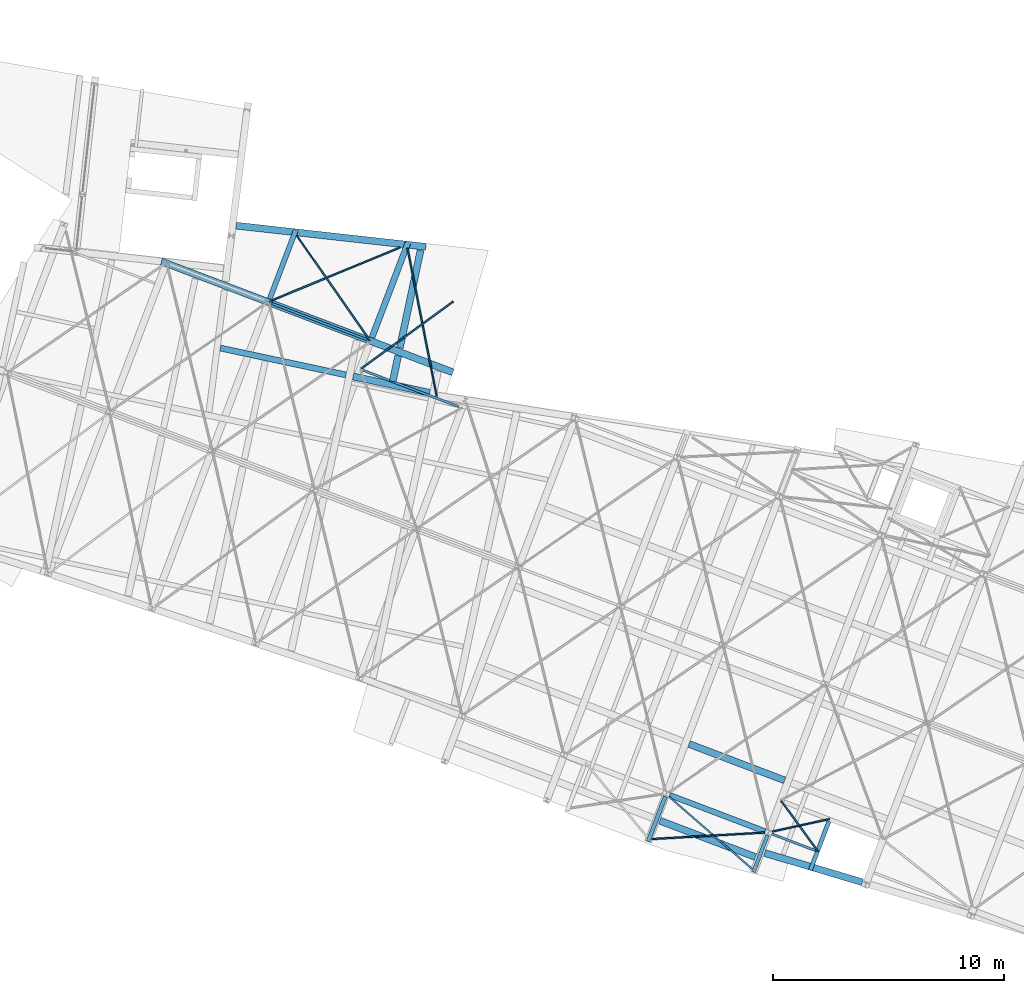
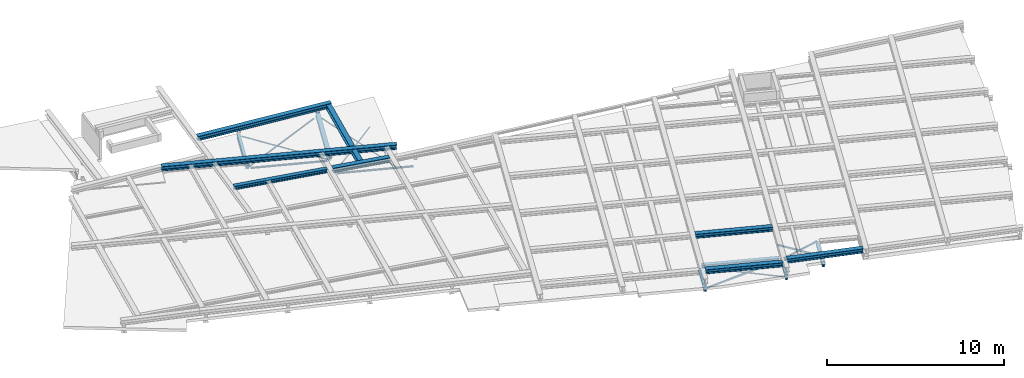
# One storey, part 13 of 21: 26 beams.
"""IFC2X3 building model written with IfcOpenShell, lengths in millimetres."""

from ifc_helpers import new_model, entity, si_unit, converted_unit, derived_unit, direction, frame, frame_2d, origin, place, context, subcontext, project, spatial, polyline, circle_curve, parameter, trimmed, segment, composite_curve, i_section, outline, extrude, clip, halfspace, material, type_object, element, save


model = new_model("IFC2X3")

# Units and contexts
model_context = context("Model", 3, precision=0.01, world=origin(), true_north=direction((6.123233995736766e-17, 1.0)))
body_context = subcontext(model_context, "Body", "Model", "MODEL_VIEW")
ifc_project = project(units=[si_unit("LENGTHUNIT", "METRE", prefix="MILLI"), converted_unit("PLANEANGLEUNIT", "DEGREE", entity("IfcPlaneAngleMeasure", 0.017453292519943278), si_unit("PLANEANGLEUNIT", "RADIAN"), dimensions=[0, 0, 0, 0, 0, 0, 0]), si_unit("AREAUNIT", "SQUARE_METRE"), derived_unit("THERMALTRANSMITTANCEUNIT", [(si_unit("MASSUNIT", "GRAM", prefix="KILO"), 1), (si_unit("THERMODYNAMICTEMPERATUREUNIT", "KELVIN"), -1), (si_unit("TIMEUNIT", "SECOND"), -3)])], contexts=[model_context])

# Site, building, storey
site_placement = place(None, frame((-72937.88054949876, 11621.45624098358, 0.0), z_axis=(0.0, 0.0, 1.0), x_axis=(0.9346418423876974, -0.35559053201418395, 0.0)))
site = spatial("IfcSite", under=ifc_project, at=site_placement, Name="Default", CompositionType="ELEMENT")
building_placement = place(site_placement, origin())
building = spatial("IfcBuilding", under=site, at=building_placement, CompositionType="ELEMENT")
storey_placement = place(building_placement, frame((0.0, 0.0, 4250.0)))
storey = spatial("IfcBuildingStorey", under=building, at=storey_placement, Name="01 eerste verdieping", CompositionType="ELEMENT", Elevation=4250.0)

# Beams
ifc_material_1 = material(Name="metaal_staal_generiek")
beam_type_1 = type_object("IfcBeamType", Name="DIE16", PredefinedType="BEAM")
beam_1_placement = place(storey_placement, frame((52840.0, 15000.0, -80.0), z_axis=(0.0, 0.0, 1.0), x_axis=(0.0, -1.0, 0.0)))
element("IfcBeam", 1, at=beam_1_placement, inside=storey, type_object=beam_type_1, material=ifc_material_1, Name="28.11_Stalen balk HEA", ObjectType="stalen balk HEA profiel", context=body_context, shape_type="SweptSolid", body=[
    extrude(i_section(OverallWidth=159.99999999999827, OverallDepth=152.00000000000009, WebThickness=5.999999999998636, FlangeThickness=9.00000000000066, FilletRadius=14.999999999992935, at=frame_2d((5.400124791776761e-13, 0.0), x_axis=(0.0, 1.0))), frame((125.04658124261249, 0.0, -246.0), z_axis=(1.0, 0.0, 0.0), x_axis=(0.0, 0.0, -1.0)), (0.0, 0.0, 1.0), 1697.1999999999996),
])
beam_type_2 = type_object("IfcBeamType", Name="DIE18", PredefinedType="BEAM")
beam_2_placement = place(storey_placement, frame((48110.0, 15000.0, -80.0), z_axis=(0.0, 0.0, 1.0), x_axis=(0.0, -1.0, 0.0)))
element("IfcBeam", 2, at=beam_2_placement, inside=storey, type_object=beam_type_2, material=ifc_material_1, Name="28.11_Stalen balk HEA", ObjectType="stalen balk HEA profiel", context=body_context, shape_type="SweptSolid", body=[
    extrude(i_section(OverallWidth=180.0000000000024, OverallDepth=171.0000000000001, WebThickness=5.999999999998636, FlangeThickness=9.500000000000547, FilletRadius=14.999999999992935, at=frame_2d((1.0800249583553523e-12, -4.334310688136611e-12), x_axis=(0.0, 1.0))), frame((125.00896072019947, 0.0, -255.50000000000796), z_axis=(1.0, 0.0, 0.0), x_axis=(0.0, 0.0, -1.0)), (0.0, 0.0, 1.0), 2077.5),
])
beam_type_3 = type_object("IfcBeamType", Name="DIE24", PredefinedType="BEAM")
beam_3_placement = place(storey_placement, frame((52840.0, 15000.0, -80.0), z_axis=(0.0, 0.0, 1.0), x_axis=(-1.0, 0.0, 0.0)))
element("IfcBeam", 3, at=beam_3_placement, inside=storey, type_object=beam_type_3, material=ifc_material_1, Name="28.11_Stalen balk HEA", ObjectType="stalen balk HEA profiel", context=body_context, shape_type="SweptSolid", body=[
    extrude(i_section(OverallWidth=239.99999999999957, OverallDepth=229.9999999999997, WebThickness=7.50000000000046, FlangeThickness=12.00000000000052, FilletRadius=20.999999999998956, at=frame_2d((1.0800249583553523e-12, -1.0871303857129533e-12), x_axis=(0.0, 1.0))), frame((150.0, 0.0, -115.0), z_axis=(1.0, 0.0, 0.0), x_axis=(0.0, 0.0, -1.0)), (0.0, 0.0, 1.0), 4429.999999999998),
])
beam_type_4 = type_object("IfcBeamType", Name="DIE10", PredefinedType="BEAM")
beam_4_placement = place(storey_placement, frame((33920.0, 27460.0, -80.0), z_axis=(0.0, 0.0, 1.0), x_axis=(-1.0, 0.0, 0.0)))
element("IfcBeam", 4, at=beam_4_placement, inside=storey, type_object=beam_type_4, material=ifc_material_1, Name="28.11_Stalen balk HEA", ObjectType="stalen balk HEA profiel", context=body_context, shape_type="SweptSolid", body=[
    extrude(i_section(OverallWidth=99.99999999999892, OverallDepth=95.99999999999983, WebThickness=4.999999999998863, FlangeThickness=8.000000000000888, FilletRadius=12.000000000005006, at=frame_2d((1.623590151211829e-12, -2.1671553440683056e-12), x_axis=(0.0, 1.0))), frame((162.69999999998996, 0.0, -218.0), z_axis=(1.0, 0.0, 0.0), x_axis=(0.0, 0.0, -1.0)), (0.0, 0.0, 1.0), 4404.600000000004),
])
beam_5_placement = place(storey_placement, frame((29190.0, 28760.0, -80.0), z_axis=(0.0, 0.0, 1.0), x_axis=(-1.0, 0.0, 0.0)))
element("IfcBeam", 5, at=beam_5_placement, inside=storey, type_object=beam_type_4, material=ifc_material_1, Name="28.11_Stalen balk HEA", ObjectType="stalen balk HEA profiel", context=body_context, shape_type="SweptSolid", body=[
    extrude(i_section(OverallWidth=99.99999999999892, OverallDepth=95.99999999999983, WebThickness=4.999999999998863, FlangeThickness=8.000000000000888, FilletRadius=12.000000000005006, at=frame_2d((1.623590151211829e-12, 2.1671553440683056e-12), x_axis=(0.0, 1.0))), frame((162.69999999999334, 0.0, -218.0), z_axis=(1.0, 0.0, 0.0), x_axis=(0.0, 0.0, -1.0)), (0.0, 0.0, 1.0), 4404.600000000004),
])
beam_6_placement = place(storey_placement, frame((55019.885669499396, 15000.0, -80.0), z_axis=(0.0, 0.0, 1.0), x_axis=(-1.0, 0.0, 0.0)))
element("IfcBeam", 6, at=beam_6_placement, inside=storey, type_object=beam_type_4, material=ifc_material_1, Name="28.11_Stalen balk HEA", ObjectType="stalen balk HEA profiel", context=body_context, shape_type="SweptSolid", body=[
    extrude(i_section(OverallWidth=100.0000000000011, OverallDepth=95.99999999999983, WebThickness=5.0000000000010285, FlangeThickness=8.000000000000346, FilletRadius=11.999999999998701, at=frame_2d((1.623590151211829e-12, 1.0835776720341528e-12), x_axis=(0.0, 1.0))), frame((0.042834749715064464, 0.0, -218.0), z_axis=(1.0, 0.0, 0.0), x_axis=(0.0, 0.0, -1.0)), (0.0, 0.0, 1.0), 2029.8000000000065),
])
beam_type_5 = type_object("IfcBeamType", Name="DIE26", PredefinedType="BEAM")
beam_7_placement = place(storey_placement, frame((29190.0, 28760.0, -80.0), z_axis=(0.0, 0.0, 1.0), x_axis=(0.0, 1.0, 0.0)))
element("IfcBeam", 7, at=beam_7_placement, inside=storey, type_object=beam_type_5, material=ifc_material_1, Name="28.11_Stalen balk HEA", ObjectType="stalen balk HEA profiel", context=body_context, shape_type="SweptSolid", body=[
    extrude(i_section(OverallWidth=260.00000000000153, OverallDepth=250.00000000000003, WebThickness=7.500000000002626, FlangeThickness=12.500000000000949, FilletRadius=23.999999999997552, at=frame_2d((-2.7000623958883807e-13, 4.320099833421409e-12), x_axis=(0.0, 1.0))), frame((160.00881221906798, 0.0, -125.0), z_axis=(1.0, 0.0, 0.0), x_axis=(0.0, 0.0, -1.0)), (0.0, 0.0, 1.0), 4374.700000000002),
])
beam_type_6 = type_object("IfcBeamType", Name="DIE22", PredefinedType="BEAM")
beam_8_placement = place(storey_placement, frame((24460.0, 28760.0, -80.0), z_axis=(0.0, 0.0, 1.0), x_axis=(0.0, 1.0, 0.0)))
element("IfcBeam", 8, at=beam_8_placement, inside=storey, type_object=beam_type_6, material=ifc_material_1, Name="28.11_Stalen balk HEA", ObjectType="stalen balk HEA profiel", context=body_context, shape_type="SweptSolid", body=[
    extrude(i_section(OverallWidth=220.00000000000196, OverallDepth=209.9999999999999, WebThickness=7.00000000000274, FlangeThickness=11.000000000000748, FilletRadius=18.0000000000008, at=frame_2d((1.0871303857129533e-12, -2.1671553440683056e-12), x_axis=(0.0, 1.0))), frame((160.03702083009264, 0.0, -275.0), z_axis=(1.0, 0.0, 0.0), x_axis=(0.0, 0.0, -1.0)), (0.0, 0.0, 1.0), 3153.099999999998),
])
beam_type_7 = type_object("IfcBeamType", Name="L70x7", PredefinedType="NOTDEFINED")
beam_9_placement = place(storey_placement, frame((48110.0, 15000.0, -270.0), z_axis=(0.0, 0.0, 1.0), x_axis=(0.9387184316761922, -0.3446849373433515, 0.0)))
element("IfcBeam", 9, at=beam_9_placement, inside=storey, type_object=beam_type_7, material=ifc_material_1, Name="28.11_SF_WVB-L-Gelijkzijdig:L70x7", ObjectType="28.11_SF_WVB-L-Gelijkzijdig:L70x7", context=body_context, shape_type="SweptSolid", body=[
    extrude(outline(composite_curve([segment(polyline([(-26.44444444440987, -43.55555555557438), (-23.944444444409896, -43.55555555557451)]), True, "CONTINUOUS"), segment(trimmed(circle_curve(frame_2d((-23.944444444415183, -39.05555555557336), x_axis=(0.0, -1.0)), 4.500000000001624), [parameter(0.0)], [parameter(89.99999999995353)], True, "PARAMETER"), True, "CONTINUOUS"), segment(polyline([(-19.444444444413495, -39.055555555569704), (-19.44444444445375, 10.444444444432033)]), True, "CONTINUOUS"), segment(trimmed(circle_curve(frame_2d((-10.44444444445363, 10.444444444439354), x_axis=(-1.0, 0.0)), 9.000000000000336), [parameter(269.9999999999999)], [parameter(0.0)], True, "PARAMETER"), False, "CONTINUOUS"), segment(polyline([(-10.44444444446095, 19.44444444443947), (39.05555555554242, 19.444444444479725)]), True, "CONTINUOUS"), segment(trimmed(circle_curve(frame_2d((39.05555555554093, 23.944444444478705), x_axis=(0.0, -1.0)), 4.4999999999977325), [parameter(0.0)], [parameter(90.00000000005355)], True, "PARAMETER"), True, "CONTINUOUS"), segment(polyline([(43.555555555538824, 23.944444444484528), (43.555555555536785, 26.44444444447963)]), True, "CONTINUOUS"), segment(polyline([(43.555555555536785, 26.444444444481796), (-26.444444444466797, 26.444444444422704)]), True, "CONTINUOUS"), segment(polyline([(-26.444444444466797, 26.44444444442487), (-26.44444444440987, -43.55555555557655)]), True, "CONTINUOUS")], self_intersect=False)), frame((169.6923121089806, -6.744444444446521, -6.7444444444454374), z_axis=(1.0, 0.0, 0.0), x_axis=(0.0, 0.0, -1.0)), (0.0, 0.0, 1.0), 4790.70000000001),
])
beam_10_placement = place(storey_placement, frame((55109.897683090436, 16480.00012850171, -270.0), z_axis=(0.0, 0.0, 1.0), x_axis=(-0.8376727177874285, -0.5461725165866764, 0.0)))
element("IfcBeam", 10, at=beam_10_placement, inside=storey, type_object=beam_type_7, material=ifc_material_1, Name="28.11_SF_WVB-L-Gelijkzijdig:L70x7", ObjectType="28.11_SF_WVB-L-Gelijkzijdig:L70x7", context=body_context, shape_type="SweptSolid", body=[
    extrude(outline(composite_curve([segment(polyline([(-26.444444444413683, -43.55555555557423), (-23.94444444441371, -43.55555555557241)]), True, "CONTINUOUS"), segment(trimmed(circle_curve(frame_2d((-23.944444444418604, -39.05555555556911), x_axis=(0.0, -1.0)), 4.500000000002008), [parameter(0.0)], [parameter(89.99999999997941)], True, "PARAMETER"), True, "CONTINUOUS"), segment(polyline([(-19.444444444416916, -39.05555555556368), (-19.444444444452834, 10.4444444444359)]), True, "CONTINUOUS"), segment(trimmed(circle_curve(frame_2d((-10.444444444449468, 10.444444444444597), x_axis=(-1.0, 0.0)), 9.000000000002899), [parameter(270.00000000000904)], [parameter(0.0)], True, "PARAMETER"), False, "CONTINUOUS"), segment(polyline([(-10.444444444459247, 19.444444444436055), (39.05555555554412, 19.444444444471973)]), True, "CONTINUOUS"), segment(trimmed(circle_curve(frame_2d((39.05555555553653, 23.944444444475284), x_axis=(0.0, -1.0)), 4.500000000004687), [parameter(0.0)], [parameter(89.99999999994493)], True, "PARAMETER"), True, "CONTINUOUS"), segment(polyline([(43.55555555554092, 23.944444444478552), (43.5555555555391, 26.444444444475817)]), True, "CONTINUOUS"), segment(polyline([(43.5555555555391, 26.444444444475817), (-26.44444444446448, 26.44444444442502)]), True, "CONTINUOUS"), segment(polyline([(-26.44444444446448, 26.44444444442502), (-26.444444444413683, -43.55555555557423)]), True, "CONTINUOUS")], self_intersect=False)), frame((0.03337801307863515, -6.744444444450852, -6.7444444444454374), z_axis=(1.0, 0.0, 0.0), x_axis=(0.0, 0.0, -1.0)), (0.0, 0.0, 1.0), 2532.5000000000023),
])
beam_type_8 = type_object("IfcBeamType", Name="L70x7", PredefinedType="BEAM")
beam_11_placement = place(storey_placement, frame((52840.0, 15000.0, -270.0), z_axis=(0.0, 0.0, 1.0), x_axis=(-0.912748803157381, -0.4085212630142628, 0.0)))
element("IfcBeam", 11, at=beam_11_placement, inside=storey, type_object=beam_type_8, material=ifc_material_1, Name="28.11_SF_WVB-L-Gelijkzijdig:L70x7", ObjectType="28.11_SF_WVB-L-Gelijkzijdig:L70x7", context=body_context, shape_type="SweptSolid", body=[
    extrude(outline(composite_curve([segment(polyline([(-26.444444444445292, -43.555555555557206), (-23.944444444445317, -43.555555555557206)]), True, "CONTINUOUS"), segment(trimmed(circle_curve(frame_2d((-23.944444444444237, -39.055555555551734), x_axis=(0.0, -1.0)), 4.499999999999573), [parameter(0.0)], [parameter(90.00000000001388)], True, "PARAMETER"), True, "CONTINUOUS"), segment(polyline([(-19.444444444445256, -39.055555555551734), (-19.444444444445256, 10.444444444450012)]), True, "CONTINUOUS"), segment(trimmed(circle_curve(frame_2d((-10.444444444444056, 10.444444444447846), x_axis=(-1.0, 0.0)), 9.000000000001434), [parameter(270.0000000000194)], [parameter(0.0)], True, "PARAMETER"), False, "CONTINUOUS"), segment(polyline([(-10.444444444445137, 19.4444444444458), (39.05555555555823, 19.4444444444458)]), True, "CONTINUOUS"), segment(trimmed(circle_curve(frame_2d((39.055555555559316, 23.94444444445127), x_axis=(0.0, -1.0)), 4.49999999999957), [parameter(0.0)], [parameter(90.00000000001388)], True, "PARAMETER"), True, "CONTINUOUS"), segment(polyline([(43.55555555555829, 23.94444444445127), (43.55555555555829, 26.444444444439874)]), True, "CONTINUOUS"), segment(polyline([(43.55555555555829, 26.444444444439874), (-26.444444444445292, 26.444444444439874)]), True, "CONTINUOUS"), segment(polyline([(-26.444444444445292, 26.444444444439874), (-26.444444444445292, -43.555555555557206)]), True, "CONTINUOUS")], self_intersect=False)), frame((164.02433701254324, -6.744444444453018, -6.7444444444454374), z_axis=(1.0, 0.0, 0.0), x_axis=(0.0, 0.0, -1.0)), (0.0, 0.0, 1.0), 4882.000000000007),
])
beam_12_placement = place(storey_placement, frame((24460.0, 31987.674041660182, -270.0), z_axis=(0.0, 0.0, 1.0), x_axis=(0.8260099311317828, -0.5636555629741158, 0.0)))
element("IfcBeam", 12, at=beam_12_placement, inside=storey, type_object=beam_type_8, material=ifc_material_1, Name="28.11_SF_WVB-L-Gelijkzijdig:L70x7", ObjectType="28.11_SF_WVB-L-Gelijkzijdig:L70x7", context=body_context, shape_type="SweptSolid", body=[
    extrude(outline(composite_curve([segment(polyline([(-26.444444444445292, -43.55555555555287), (-23.944444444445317, -43.55555555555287)]), True, "CONTINUOUS"), segment(trimmed(circle_curve(frame_2d((-23.944444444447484, -39.05555555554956), x_axis=(0.0, -1.0)), 4.500000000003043), [parameter(0.0)], [parameter(89.99999999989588)], True, "PARAMETER"), True, "CONTINUOUS"), segment(polyline([(-19.444444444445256, -39.055555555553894), (-19.444444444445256, 10.444444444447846)]), True, "CONTINUOUS"), segment(trimmed(circle_curve(frame_2d((-10.444444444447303, 10.444444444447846), x_axis=(-1.0, 0.0)), 8.99999999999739), [parameter(269.99999999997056)], [parameter(0.0)], True, "PARAMETER"), False, "CONTINUOUS"), segment(polyline([(-10.444444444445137, 19.44444444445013), (39.05555555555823, 19.44444444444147)]), True, "CONTINUOUS"), segment(trimmed(circle_curve(frame_2d((39.05555555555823, 23.944444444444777), x_axis=(0.0, -1.0)), 4.5000000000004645), [parameter(0.0)], [parameter(90.00000000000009)], True, "PARAMETER"), True, "CONTINUOUS"), segment(polyline([(43.55555555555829, 23.944444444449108), (43.55555555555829, 26.44444444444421)]), True, "CONTINUOUS"), segment(polyline([(43.55555555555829, 26.44444444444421), (-26.444444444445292, 26.44444444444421)]), True, "CONTINUOUS"), segment(polyline([(-26.444444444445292, 26.44444444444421), (-26.444444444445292, -43.55555555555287)]), True, "CONTINUOUS")], self_intersect=False)), frame((176.21170165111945, -6.744444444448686, -6.7444444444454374), z_axis=(1.0, 0.0, 0.0), x_axis=(0.0, 0.0, -1.0)), (0.0, 0.0, 1.0), 5530.200000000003),
])
beam_13_placement = place(storey_placement, frame((29190.0, 33209.21762443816, -270.0), z_axis=(0.0, 0.0, 1.0), x_axis=(-0.7283957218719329, -0.685156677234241, 0.0)))
element("IfcBeam", 13, at=beam_13_placement, inside=storey, type_object=beam_type_8, material=ifc_material_1, Name="28.11_SF_WVB-L-Gelijkzijdig:L70x7", ObjectType="28.11_SF_WVB-L-Gelijkzijdig:L70x7", context=body_context, shape_type="SweptSolid", body=[
    extrude(outline(composite_curve([segment(polyline([(-26.444444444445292, -43.5555555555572), (-23.944444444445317, -43.5555555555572)]), True, "CONTINUOUS"), segment(trimmed(circle_curve(frame_2d((-23.94444444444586, -39.05555555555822), x_axis=(0.0, -1.0)), 4.50000000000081), [parameter(0.0)], [parameter(89.9999999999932)], True, "PARAMETER"), True, "CONTINUOUS"), segment(polyline([(-19.444444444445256, -39.05555555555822), (-19.444444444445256, 10.444444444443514)]), True, "CONTINUOUS"), segment(trimmed(circle_curve(frame_2d((-10.444444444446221, 10.444444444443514), x_axis=(-1.0, 0.0)), 8.999999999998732), [parameter(269.99999999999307)], [parameter(0.0)], True, "PARAMETER"), False, "CONTINUOUS"), segment(polyline([(-10.444444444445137, 19.4444444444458), (39.05555555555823, 19.4444444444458)]), True, "CONTINUOUS"), segment(trimmed(circle_curve(frame_2d((39.05555555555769, 23.944444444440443), x_axis=(0.0, -1.0)), 4.500000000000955), [parameter(0.0)], [parameter(89.9999999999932)], True, "PARAMETER"), True, "CONTINUOUS"), segment(polyline([(43.55555555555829, 23.944444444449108), (43.55555555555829, 26.44444444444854)]), True, "CONTINUOUS"), segment(polyline([(43.55555555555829, 26.444444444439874), (-26.444444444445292, 26.44444444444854)]), True, "CONTINUOUS"), segment(polyline([(-26.444444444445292, 26.444444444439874), (-26.444444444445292, -43.5555555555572)]), True, "CONTINUOUS")], self_intersect=False)), frame((332.91146415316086, -6.744444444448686, -6.7444444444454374), z_axis=(1.0, 0.0, 0.0), x_axis=(0.0, 0.0, -1.0)), (0.0, 0.0, 1.0), 6111.000000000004),
])
beam_14_placement = place(storey_placement, frame((29190.0, 33209.21762443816, -270.0), z_axis=(0.0, 0.0, 1.0), x_axis=(0.5299192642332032, -0.8480480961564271, 0.0)))
element("IfcBeam", 14, at=beam_14_placement, inside=storey, type_object=beam_type_8, material=ifc_material_1, Name="28.11_SF_WVB-L-Gelijkzijdig:L70x7", ObjectType="28.11_SF_WVB-L-Gelijkzijdig:L70x7", context=body_context, shape_type="SweptSolid", body=[
    extrude(outline(composite_curve([segment(polyline([(-26.444444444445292, -43.555555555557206), (-23.944444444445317, -43.555555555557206)]), True, "CONTINUOUS"), segment(trimmed(circle_curve(frame_2d((-23.944444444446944, -39.05555555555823), x_axis=(0.0, -1.0)), 4.500000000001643), [parameter(0.0)], [parameter(89.99999999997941)], True, "PARAMETER"), True, "CONTINUOUS"), segment(polyline([(-19.444444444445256, -39.05555555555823), (-19.444444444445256, 10.444444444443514)]), True, "CONTINUOUS"), segment(trimmed(circle_curve(frame_2d((-10.444444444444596, 10.444444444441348), x_axis=(-1.0, 0.0)), 9.000000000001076), [parameter(270.00000000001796)], [parameter(0.0)], True, "PARAMETER"), False, "CONTINUOUS"), segment(polyline([(-10.444444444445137, 19.444444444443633), (39.05555555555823, 19.444444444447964)]), True, "CONTINUOUS"), segment(trimmed(circle_curve(frame_2d((39.05555555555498, 23.944444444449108), x_axis=(0.0, -1.0)), 4.500000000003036), [parameter(0.0)], [parameter(89.9999999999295)], True, "PARAMETER"), True, "CONTINUOUS"), segment(polyline([(43.55555555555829, 23.944444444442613), (43.55555555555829, 26.444444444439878)]), True, "CONTINUOUS"), segment(polyline([(43.55555555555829, 26.444444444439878), (-26.444444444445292, 26.444444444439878)]), True, "CONTINUOUS"), segment(polyline([(-26.444444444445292, 26.44444444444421), (-26.444444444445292, -43.555555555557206)]), True, "CONTINUOUS")], self_intersect=False)), frame((134.32662948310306, -6.744444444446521, -6.7444444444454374), z_axis=(1.0, 0.0, 0.0), x_axis=(0.0, 0.0, -1.0)), (0.0, 0.0, 1.0), 6537.128285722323),
])
beam_15_placement = place(storey_placement, frame((29190.0, 27460.0, -270.0), z_axis=(0.0, 0.0, 1.0), x_axis=(0.5446897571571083, 0.8386376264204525, 0.0)))
element("IfcBeam", 15, at=beam_15_placement, inside=storey, type_object=beam_type_8, material=ifc_material_1, Name="28.11_SF_WVB-L-Gelijkzijdig:L70x7", ObjectType="28.11_SF_WVB-L-Gelijkzijdig:L70x7", context=body_context, shape_type="SweptSolid", body=[
    extrude(outline(composite_curve([segment(polyline([(-26.444444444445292, -43.555555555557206), (-23.944444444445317, -43.555555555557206)]), True, "CONTINUOUS"), segment(trimmed(circle_curve(frame_2d((-23.944444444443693, -39.05555555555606), x_axis=(0.0, -1.0)), 4.499999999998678), [parameter(0.0)], [parameter(90.00000000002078)], True, "PARAMETER"), True, "CONTINUOUS"), segment(polyline([(-19.444444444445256, -39.05555555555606), (-19.444444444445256, 10.444444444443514)]), True, "CONTINUOUS"), segment(trimmed(circle_curve(frame_2d((-10.444444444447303, 10.444444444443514), x_axis=(-1.0, 0.0)), 8.999999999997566), [parameter(269.99999999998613)], [parameter(0.0)], True, "PARAMETER"), False, "CONTINUOUS"), segment(polyline([(-10.444444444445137, 19.444444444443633), (39.05555555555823, 19.444444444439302)]), True, "CONTINUOUS"), segment(trimmed(circle_curve(frame_2d((39.05555555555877, 23.944444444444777), x_axis=(0.0, -1.0)), 4.499999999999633), [parameter(0.0)], [parameter(90.00000000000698)], True, "PARAMETER"), True, "CONTINUOUS"), segment(polyline([(43.55555555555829, 23.944444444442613), (43.55555555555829, 26.444444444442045)]), True, "CONTINUOUS"), segment(polyline([(43.55555555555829, 26.444444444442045), (-26.444444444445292, 26.444444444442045)]), True, "CONTINUOUS"), segment(polyline([(-26.444444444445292, 26.444444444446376), (-26.444444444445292, -43.555555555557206)]), True, "CONTINUOUS")], self_intersect=False)), frame((60.903868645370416, -6.744444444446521, -6.7444444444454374), z_axis=(1.0, 0.0, 0.0), x_axis=(0.0, 0.0, -1.0)), (0.0, 0.0, 1.0), 4917.600000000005),
])
beam_type_9 = type_object("IfcBeamType", Name="L70x7", PredefinedType="JOIST")
beam_16_placement = place(storey_placement, frame((55109.8856694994, 15000.0, -270.0), z_axis=(0.0, 0.0, 1.0), x_axis=(-0.8376714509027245, 0.5461744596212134, 0.0)))
element("IfcBeam", 16, at=beam_16_placement, inside=storey, type_object=beam_type_9, material=ifc_material_1, Name="28.11_SF_WVB-L-Gelijkzijdig:L70x7", ObjectType="28.11_SF_WVB-L-Gelijkzijdig:L70x7", context=body_context, shape_type="SweptSolid", body=[
    extrude(outline(composite_curve([segment(polyline([(-26.44444444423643, -43.55555555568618), (-23.944444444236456, -43.555555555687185)]), True, "CONTINUOUS"), segment(trimmed(circle_curve(frame_2d((-23.944444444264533, -39.05555555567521), x_axis=(0.0, -1.0)), 4.50000000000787), [parameter(0.0)], [parameter(89.99999999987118)], True, "PARAMETER"), True, "CONTINUOUS"), segment(polyline([(-19.444444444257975, -39.0555555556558), (-19.44444444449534, 10.44444444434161)]), True, "CONTINUOUS"), segment(trimmed(circle_curve(frame_2d((-10.444444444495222, 10.4444444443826), x_axis=(-1.0, 0.0)), 9.000000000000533), [parameter(270.0000000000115)], [parameter(0.0)], True, "PARAMETER"), False, "CONTINUOUS"), segment(polyline([(-10.444444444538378, 19.44444444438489), (39.055555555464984, 19.444444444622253)]), True, "CONTINUOUS"), segment(trimmed(circle_curve(frame_2d((39.05555555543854, 23.944444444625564), x_axis=(0.0, -1.0)), 4.500000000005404), [parameter(0.0)], [parameter(89.99999999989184)], True, "PARAMETER"), True, "CONTINUOUS"), segment(polyline([(43.555555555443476, 23.944444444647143), (43.55555555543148, 26.444444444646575)]), True, "CONTINUOUS"), segment(polyline([(43.55555555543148, 26.444444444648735), (-26.4444444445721, 26.444444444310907)]), True, "CONTINUOUS"), segment(polyline([(-26.4444444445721, 26.444444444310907), (-26.44444444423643, -43.55555555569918)]), True, "CONTINUOUS")], self_intersect=False)), frame((0.028558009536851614, -6.744444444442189, -6.7444444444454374), z_axis=(1.0, 0.0, 0.0), x_axis=(0.0, 0.0, -1.0)), (0.0, 0.0, 1.0), 2682.6000000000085),
])
ifc_material_2 = material(Name="metaal_staal_profiel_s235")
beam_type_10 = type_object("IfcBeamType", Name="HEA320", PredefinedType="BEAM")
beam_17_placement = place(storey_placement, frame((28870.345711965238, 27034.679121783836, 450.0), z_axis=(0.0, 0.0, 1.0), x_axis=(0.9883151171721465, 0.1524245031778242, 0.0)))
element("IfcBeam", 17, at=beam_17_placement, inside=storey, type_object=beam_type_10, material=ifc_material_2, Name="28.11_Stalen balk HEA", ObjectType="stalen balk HEA profiel", context=body_context, shape_type="SweptSolid", body=[
    extrude(i_section(OverallWidth=300.0000000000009, OverallDepth=309.9999999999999, WebThickness=8.999999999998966, FlangeThickness=15.500000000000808, FilletRadius=27.000000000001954, at=frame_2d((0.0, 4.277467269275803e-12), x_axis=(0.0, 1.0))), frame((162.95214909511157, 0.0, -155.0), z_axis=(1.0, 0.0, 0.0), x_axis=(0.0, 0.0, -1.0)), (0.0, 0.0, 1.0), 3386.800000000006),
])
beam_18_placement = place(storey_placement, frame((29785.3764640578, 33373.30434454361, 450.0), z_axis=(0.0, 0.0, 1.0), x_axis=(0.1539307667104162, -0.9880816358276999, 0.0)))
element("IfcBeam", 18, at=beam_18_placement, inside=storey, type_object=beam_type_10, material=ifc_material_2, Name="28.11_Stalen balk HEA", ObjectType="stalen balk HEA profiel", context=body_context, shape_type="SweptSolid", body=[
    extrude(i_section(OverallWidth=300.0000000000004, OverallDepth=309.9999999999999, WebThickness=8.999999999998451, FlangeThickness=15.500000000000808, FilletRadius=26.999999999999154, at=frame_2d((5.542233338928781e-13, -2.1458390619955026e-12), x_axis=(0.0, 1.0))), frame((178.22529903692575, 0.0, -155.0), z_axis=(1.0, 0.0, 0.0), x_axis=(0.0, 0.0, -1.0)), (0.0, 0.0, 1.0), 4315.500000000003),
])
beam_19_placement = place(storey_placement, frame((30504.071609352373, 28760.0, 450.0), z_axis=(0.0, 0.0, 1.0), x_axis=(0.15393076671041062, -0.9880816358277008, 0.0)))
element("IfcBeam", 19, at=beam_19_placement, inside=storey, type_object=beam_type_10, material=ifc_material_2, Name="28.11_Stalen balk HEA", ObjectType="stalen balk HEA profiel", context=body_context, shape_type="SweptSolid", body=[
    extrude(i_section(OverallWidth=300.0000000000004, OverallDepth=309.9999999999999, WebThickness=8.999999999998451, FlangeThickness=15.500000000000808, FilletRadius=27.000000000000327, at=frame_2d((0.0, -2.1458390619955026e-12), x_axis=(0.0, 1.0))), frame((175.22126961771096, 0.0, -155.0), z_axis=(1.0, 0.0, 0.0), x_axis=(0.0, 0.0, -1.0)), (0.0, 0.0, 1.0), 1130.6000000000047),
])
beam_20_placement = place(storey_placement, frame((29785.3764640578, 33373.30434454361, 450.0), z_axis=(0.0, 0.0, 1.0), x_axis=(-0.968232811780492, -0.25005043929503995, 0.0)))
element("IfcBeam", 20, at=beam_20_placement, inside=storey, type_object=beam_type_10, material=ifc_material_2, Name="28.11_Stalen balk HEA", ObjectType="stalen balk HEA profiel", context=body_context, shape_type="SweptSolid", body=[
    extrude(i_section(OverallWidth=300.0000000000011, OverallDepth=309.9999999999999, WebThickness=8.99999999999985, FlangeThickness=15.500000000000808, FilletRadius=27.000000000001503, at=frame_2d((5.542233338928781e-13, 0.0), x_axis=(0.0, 1.0))), frame((-194.5863693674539, 0.0, -155.0), z_axis=(1.0, 0.0, 0.0), x_axis=(0.0, 0.0, -1.0)), (0.0, 0.0, 1.0), 8259.017247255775),
])
beam_21_placement = place(storey_placement, frame((32984.42072919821, 28760.0, 450.0), z_axis=(0.0, 0.0, 1.0), x_axis=(-1.0, 0.0, 0.0)))
element("IfcBeam", 21, at=beam_21_placement, inside=storey, type_object=beam_type_10, material=ifc_material_2, Name="28.11_Stalen balk HEA", ObjectType="stalen balk HEA profiel", context=body_context, shape_type="SweptSolid", body=[
    clip(extrude(i_section(OverallWidth=300.0000000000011, OverallDepth=309.9999999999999, WebThickness=9.000000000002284, FlangeThickness=15.500000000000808, FilletRadius=26.999999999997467, at=frame_2d((0.0, -2.1600499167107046e-12), x_axis=(0.0, 1.0))), frame((-13.13578301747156, 0.0, -155.0), z_axis=(1.0, 0.0, 0.0), x_axis=(0.0, 0.0, -1.0)), (0.0, 0.0, 1.0), 13511.429616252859), halfspace(frame((13460.260973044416, 150.0, 270.0), z_axis=(0.9920594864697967, 0.12576953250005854, 0.0), x_axis=(-0.12576953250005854, 0.9920594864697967, 0.0)), False)),
])
beam_type_11 = type_object("IfcBeamType", Name="HEA260", PredefinedType="BEAM")
beam_22_placement = place(storey_placement, frame((28870.345712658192, 27034.679117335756, 450.0), z_axis=(0.0, 0.0, 1.0), x_axis=(-0.9883150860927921, -0.15242470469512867, 0.0)))
element("IfcBeam", 22, at=beam_22_placement, inside=storey, type_object=beam_type_11, material=ifc_material_2, Name="28.11_Stalen balk HEA", ObjectType="stalen balk HEA profiel", context=body_context, shape_type="SweptSolid", body=[
    extrude(i_section(OverallWidth=260.0000000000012, OverallDepth=250.00000000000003, WebThickness=7.500000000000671, FlangeThickness=12.500000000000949, FilletRadius=24.000000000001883, at=frame_2d((2.7000623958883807e-13, -2.1458390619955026e-12), x_axis=(0.0, 1.0))), frame((162.9459091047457, 0.0, -125.0), z_axis=(1.0, 0.0, 0.0), x_axis=(0.0, 0.0, -1.0)), (0.0, 0.0, 1.0), 5550.100000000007),
])
beam_type_12 = type_object("IfcBeamType", Name="HEA300", PredefinedType="BEAM")
beam_23_placement = place(storey_placement, frame((52840.0, 17365.000128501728, 450.0), z_axis=(0.0, 0.0, 1.0), x_axis=(-1.0, 0.0, 0.0)))
element("IfcBeam", 23, at=beam_23_placement, inside=storey, type_object=beam_type_12, material=ifc_material_2, Name="28.11_Stalen balk HEA", ObjectType="stalen balk HEA profiel", context=body_context, shape_type="SweptSolid", body=[
    extrude(i_section(OverallWidth=300.0000000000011, OverallDepth=290.0000000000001, WebThickness=8.500000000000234, FlangeThickness=14.000000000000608, FilletRadius=27.000000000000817, at=frame_2d((0.0, 3.254285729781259e-12), x_axis=(0.0, 1.0))), frame((150.0, 0.0, -145.0), z_axis=(1.0, 0.0, 0.0), x_axis=(0.0, 0.0, -1.0)), (0.0, 0.0, 1.0), 4429.999999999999),
])
beam_24_placement = place(storey_placement, frame((52840.0, 13815.000128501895, 450.0), z_axis=(0.0, 0.0, 1.0), x_axis=(-1.0, 0.0, 0.0)))
element("IfcBeam", 24, at=beam_24_placement, inside=storey, type_object=beam_type_12, material=ifc_material_2, Name="28.11_Stalen balk HEA", ObjectType="stalen balk HEA profiel", context=body_context, shape_type="SweptSolid", body=[
    extrude(i_section(OverallWidth=300.0000000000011, OverallDepth=290.0000000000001, WebThickness=8.500000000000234, FlangeThickness=14.000000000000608, FilletRadius=27.000000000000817, at=frame_2d((0.0, -1.0800249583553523e-12), x_axis=(0.0, 1.0))), frame((150.0, 0.0, -145.0), z_axis=(1.0, 0.0, 0.0), x_axis=(0.0, 0.0, -1.0)), (0.0, 0.0, 1.0), 4429.999999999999),
])
beam_25_placement = place(storey_placement, frame((57570.0, 14452.233700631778, 450.0), z_axis=(0.0, 0.0, 1.0), x_axis=(-0.9973760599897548, -0.0723947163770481, 0.0)))
element("IfcBeam", 25, at=beam_25_placement, inside=storey, type_object=beam_type_12, material=ifc_material_2, Name="28.11_Stalen balk HEA", ObjectType="stalen balk HEA profiel", context=body_context, shape_type="SweptSolid", body=[
    extrude(i_section(OverallWidth=300.0000000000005, OverallDepth=290.0000000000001, WebThickness=8.500000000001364, FlangeThickness=14.000000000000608, FilletRadius=27.0000000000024, at=frame_2d((2.7000623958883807e-13, 2.1600499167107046e-12), x_axis=(0.0, 1.0))), frame((167.9219441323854, 0.0, -145.0), z_axis=(1.0, 0.0, 0.0), x_axis=(0.0, 0.0, -1.0)), (0.0, 0.0, 1.0), 4413.200000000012),
])
beam_type_13 = type_object("IfcBeamType", Name="HEA180", PredefinedType="BEAM")
beam_26_placement = place(storey_placement, frame((55109.8856694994, 16479.999622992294, -249.992514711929), z_axis=(0.0, -5.912390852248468e-06, 1.0), x_axis=(0.0, -1.0, -5.912390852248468e-06)))
element("IfcBeam", 26, at=beam_26_placement, inside=storey, type_object=beam_type_13, material=ifc_material_1, Name="28.11_Stalen balk HEA", ObjectType="stalen balk HEA profiel", context=body_context, shape_type="SweptSolid", body=[
    extrude(i_section(OverallWidth=180.0000000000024, OverallDepth=171.00000000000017, WebThickness=5.999999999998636, FlangeThickness=9.500000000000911, FilletRadius=14.99999999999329, at=frame_2d((0.0, -4.334310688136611e-12), x_axis=(0.0, 1.0))), frame((90.0139368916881, 0.0, -85.49999999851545), z_axis=(1.0, 0.0, 0.0), x_axis=(0.0, 0.0, -1.0)), (0.0, 0.0, 1.0), 2257.0739485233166),
])

save(model, "model.ifc")
